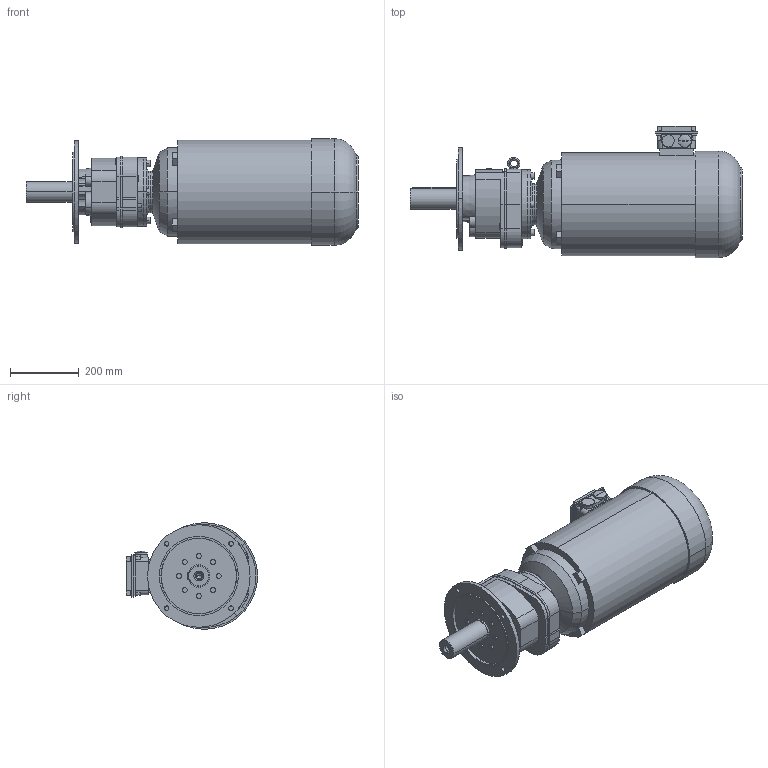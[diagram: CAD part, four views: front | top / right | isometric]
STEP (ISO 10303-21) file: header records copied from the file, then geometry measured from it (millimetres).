
FILE_DESCRIPTION(('STEP AP214'),'1');
FILE_NAME('STEP-File.stp','2018-01-01T00:00:00',(' '),('KEB'),' ','KEB-DRIVE',' ');
FILE_SCHEMA(('AUTOMOTIVE_DESIGN { 1 0 10303 214 1 1 1 1 }'));
Length unit declared in the file: millimetre
Products named in the file (10): g4b; w4_we_60x140; c4_300; cs4; dm160_kkn; kk10; PLUG_M32; SCREW-PLUG_M32; ndm160; ZG42 DM160MB4§CAD13
Assembly tree (9 placements, depth 2):
  ZG42 DM160MB4§CAD13
    g4b
    w4_we_60x140
    c4_300
    cs4
    dm160_kkn
    kk10
    PLUG_M32
    SCREW-PLUG_M32
    ndm160
Bounding box: 965.99 x 381.6 x 310 mm (x, y, z)
Volume: 48800718.5 mm3; surface area: 1461183.6 mm2
Topology: 9 solids, 9 shells, 365 faces, 902 edges, 595 vertices
Faces by surface type: plane 195, cylinder 115, cone 30, torus 19, bspline 4, revolution 2
Entity records: 15066 total; most frequent: CARTESIAN_POINT 6417, ORIENTED_EDGE 1800, DIRECTION 1617, EDGE_CURVE 900, VERTEX_POINT 595, AXIS2_PLACEMENT_3D 563, VECTOR 489, LINE 489
